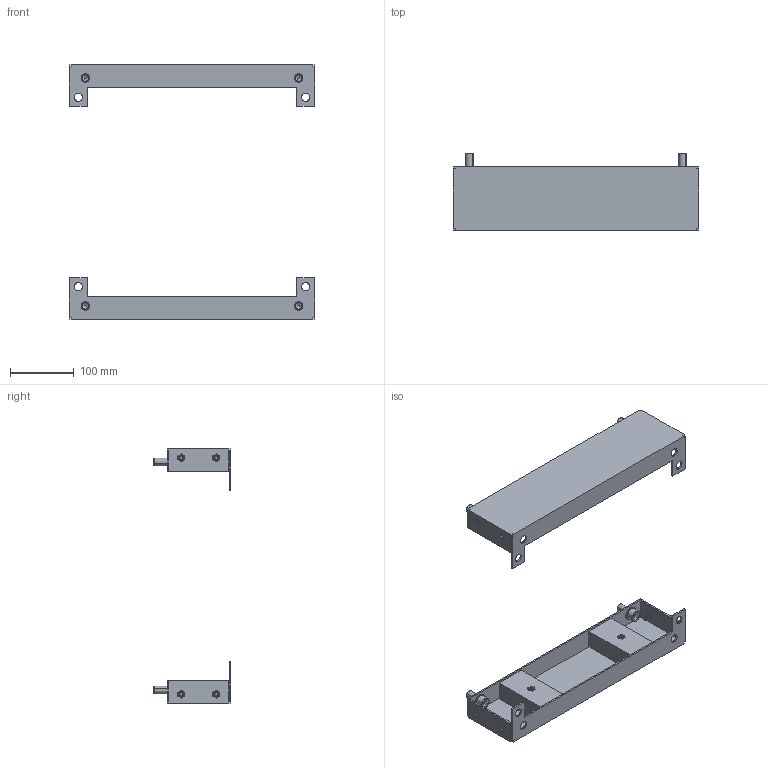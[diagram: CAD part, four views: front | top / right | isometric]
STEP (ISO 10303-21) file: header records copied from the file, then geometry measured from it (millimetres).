
FILE_DESCRIPTION (( 'STEP AP203' ), '1' );
FILE_NAME ('R6PLB45 H=400.STEP', '2025-05-16T11:36:49', ( '' ), ( '' ), 'SwSTEP 2.0', 'SolidWorks 2022', '' );
FILE_SCHEMA (( 'CONFIG_CONTROL_DESIGN' ));
Length unit declared in the file: millimetre
Products named in the file (8): M6 MGS-MPO-0635_straight; M6 MGS-MPO-0635_thread; R6PLB45 H=400; 12 DIN 6798 A Zinc; M12x25 DIN 912 HX cl.8,8 Zinc_stright; RB.3309.00.00.0 СБ simple_-03; RB.3309.00.02.0 simple; RB.3309.00.01.0 simple_-03
Assembly tree (19 placements, depth 3):
  R6PLB45 H=400
    RB.3309.00.00.0 СБ simple_-03  x2
      RB.3309.00.01.0 simple_-03
      M6 MGS-MPO-0635_thread
      RB.3309.00.02.0 simple
      M6 MGS-MPO-0635_straight
    12 DIN 6798 A Zinc  x4
    M12x25 DIN 912 HX cl.8,8 Zinc_stright  x4
Bounding box: 386.7 x 121.5 x 400 mm (x, y, z)
Volume: 476550.8 mm3; surface area: 394025.4 mm2
Topology: 26 solids, 26 shells, 1568 faces, 4128 edges, 2388 vertices
Faces by surface type: plane 640, cylinder 544, bspline 168, sphere 144, cone 40, torus 32
Entity records: 15002 total; most frequent: CARTESIAN_POINT 5755, ORIENTED_EDGE 1768, DIRECTION 1539, EDGE_CURVE 884, VERTEX_POINT 558, VECTOR 533, LINE 533, AXIS2_PLACEMENT_3D 503
